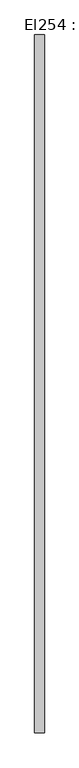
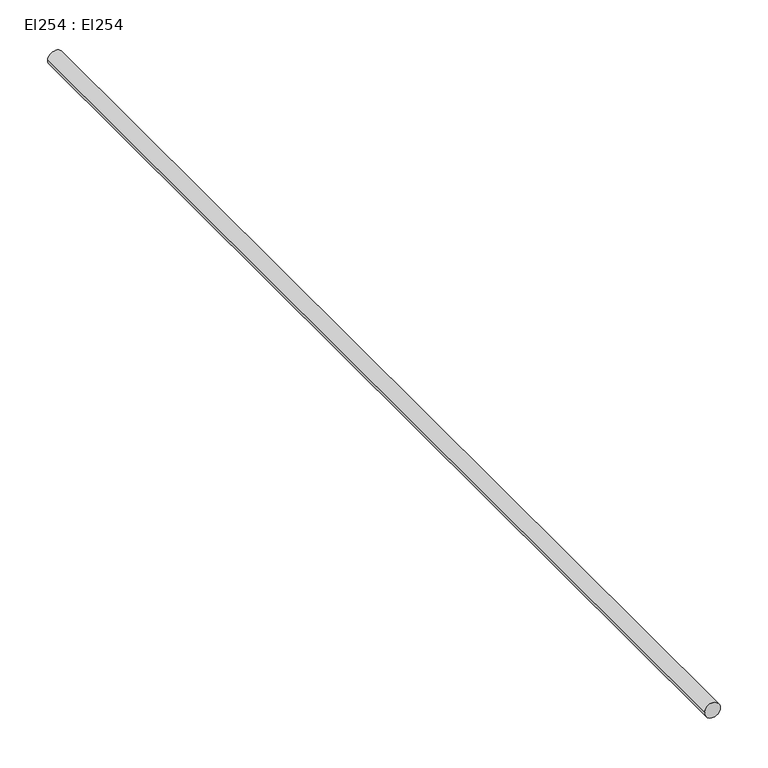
"""IFC4 building model written with IfcOpenShell, lengths in millimetres: cable carrier segment geometry, El254 : El254."""

import ifcopenshell
import ifcopenshell.guid

model = None  # the IFC model being written
_history = None  # IfcOwnerHistory: only IFC2X3 demands one
_inside = {}  # id of a spatial element -> (the spatial element, [elements in it])
_under = {}  # id of a project, library or spatial element -> (it, [spatial elements below it])
_declared = {}  # id of a project -> (the project, [libraries it declares])
_typed = {}  # id of a type object -> (the type object, [elements of that type])
_made_of = {}  # id of a material, layer set ... -> (it, [elements and type objects made of it])


def new_model(schema):
    """Start an empty IFC model of exactly this schema.

    Asked for "IFC4X3", IfcOpenShell would pick the latest addendum, in which some entities
    have other attributes; the version numbers below select the first issue.
    IFC2X3 requires an IfcOwnerHistory on every rooted entity: one is made here for all.
    """
    global model, _history
    if schema == "IFC4X3":
        model = ifcopenshell.file(schema_version=(4, 3, 0, 0))
    else:
        model = ifcopenshell.file(schema=schema)
    _inside.clear()
    _under.clear()
    _declared.clear()
    _typed.clear()
    _made_of.clear()
    _history = None
    if model.schema == "IFC2X3":
        org = make("IfcOrganization", Name="unknown")
        user = make(
            "IfcPersonAndOrganization",
            ThePerson=make("IfcPerson", FamilyName="unknown"),
            TheOrganization=org,
        )
        app = make(
            "IfcApplication",
            ApplicationDeveloper=org,
            Version="unknown",
            ApplicationFullName="unknown",
            ApplicationIdentifier="unknown",
        )
        _history = make(
            "IfcOwnerHistory",
            OwningUser=user,
            OwningApplication=app,
            ChangeAction="ADDED",
            CreationDate=0,
        )
    return model


def make(cls, **values):
    """One entity of the class cls with the attributes given. An attribute that is None is left unset."""
    return model.create_entity(
        cls, **{name: value for name, value in values.items() if value is not None}
    )


def rooted(cls, **values):
    """An entity with a GlobalId (a new one), such as an element, a storey or a relation."""
    return make(cls, GlobalId=ifcopenshell.guid.new(), OwnerHistory=_history, **values)


def si_unit(unit_type, name, prefix=None):
    """IfcSIUnit, for example si_unit("LENGTHUNIT", "METRE", prefix="MILLI")."""
    return make("IfcSIUnit", UnitType=unit_type, Prefix=prefix, Name=name)


def assignment(units):
    """IfcUnitAssignment: the units of a project."""
    return None if units is None else make("IfcUnitAssignment", Units=units)


def point(xyz):
    """IfcCartesianPoint."""
    return None if xyz is None else make("IfcCartesianPoint", Coordinates=xyz)


def direction(xyz):
    """IfcDirection."""
    return None if xyz is None else make("IfcDirection", DirectionRatios=xyz)


def frame(location, z_axis=None, x_axis=None):
    """IfcAxis2Placement3D, a coordinate frame: its origin and axes. An axis left out is left unset."""
    return make(
        "IfcAxis2Placement3D",
        Location=point(location),
        Axis=direction(z_axis),
        RefDirection=direction(x_axis),
    )


def frame_2d(location, x_axis=None):
    """IfcAxis2Placement2D, a coordinate frame in the plane: its origin and x axis."""
    return make(
        "IfcAxis2Placement2D", Location=point(location), RefDirection=direction(x_axis)
    )


def origin():
    """The frame at (0, 0, 0) with its axes left unset."""
    return frame((0.0, 0.0, 0.0))


def place(relative_to, where):
    """IfcLocalPlacement: puts the frame where relative to a parent placement (None: the world)."""
    return make(
        "IfcLocalPlacement", PlacementRelTo=relative_to, RelativePlacement=where
    )


def context(
    kind, dimensions, precision=None, world=None, true_north=None, identifier=None
):
    """IfcGeometricRepresentationContext, for example the 3D "Model" context."""
    return make(
        "IfcGeometricRepresentationContext",
        ContextIdentifier=identifier,
        ContextType=kind,
        CoordinateSpaceDimension=dimensions,
        Precision=precision,
        WorldCoordinateSystem=world,
        TrueNorth=true_north,
    )


def project(units=None, contexts=None):
    """IfcProject with its units and contexts."""
    return rooted(
        "IfcProject",
        Name="project",
        RepresentationContexts=contexts,
        UnitsInContext=assignment(units),
    )


def spatial(cls, under=None, at=None, **own):
    """A site, building, storey or space (cls), placed at a placement, below another one or the project."""
    s = rooted(cls, ObjectPlacement=at, **own)
    if under is not None:
        _under.setdefault(under.id(), (under, []))[1].append(s)
    return s


def circle_curve(where, radius):
    """IfcCircle in the frame where."""
    return make("IfcCircle", Position=where, Radius=radius)


def trimmed(basis, trim1, trim2, sense, master):
    """IfcTrimmedCurve: the piece of a basis curve between two trims."""
    return make(
        "IfcTrimmedCurve",
        BasisCurve=basis,
        Trim1=trim1,
        Trim2=trim2,
        SenseAgreement=sense,
        MasterRepresentation=master,
    )


def segment(curve, same_sense, transition):
    """IfcCompositeCurveSegment."""
    return make(
        "IfcCompositeCurveSegment",
        Transition=transition,
        SameSense=same_sense,
        ParentCurve=curve,
    )


def composite_curve(segments, self_intersect=None):
    """IfcCompositeCurve: segments joined end to end."""
    return make("IfcCompositeCurve", Segments=segments, SelfIntersect=self_intersect)


def outline(outer, holes=None, kind="AREA"):
    """IfcArbitraryClosedProfileDef: a profile drawn as a closed curve; with holes, ...WithVoids."""
    if holes is None:
        return make("IfcArbitraryClosedProfileDef", ProfileType=kind, OuterCurve=outer)
    return make(
        "IfcArbitraryProfileDefWithVoids",
        ProfileType=kind,
        OuterCurve=outer,
        InnerCurves=holes,
    )


def extrude(swept, where, along, depth):
    """IfcExtrudedAreaSolid: the profile swept, set in the frame where, extruded along a direction by depth."""
    return make(
        "IfcExtrudedAreaSolid",
        SweptArea=swept,
        Position=where,
        ExtrudedDirection=direction(along),
        Depth=depth,
    )


def shape(context_of_items, identifier, shape_type, items):
    """IfcShapeRepresentation: the items that make up one representation, for example the "Body"."""
    return make(
        "IfcShapeRepresentation",
        ContextOfItems=context_of_items,
        RepresentationIdentifier=identifier,
        RepresentationType=shape_type,
        Items=items,
    )


def source(mapping_origin, context_of_items, identifier, shape_type, items):
    """IfcRepresentationMap: a shape defined once, which mapped items show again and again."""
    return make(
        "IfcRepresentationMap",
        MappingOrigin=mapping_origin,
        MappedRepresentation=shape(context_of_items, identifier, shape_type, items),
    )


def transform(
    local_origin,
    x_axis=None,
    y_axis=None,
    z_axis=None,
    scale=None,
    scale2=None,
    scale3=None,
    uniform=True,
):
    """IfcCartesianTransformationOperator3D, or its non-uniform kind. x_axis, y_axis, z_axis: its Axis1, 2, 3."""
    if uniform:
        return make(
            "IfcCartesianTransformationOperator3D",
            Axis1=direction(x_axis),
            Axis2=direction(y_axis),
            LocalOrigin=point(local_origin),
            Scale=scale,
            Axis3=direction(z_axis),
        )
    return make(
        "IfcCartesianTransformationOperator3DnonUniform",
        Axis1=direction(x_axis),
        Axis2=direction(y_axis),
        LocalOrigin=point(local_origin),
        Scale=scale,
        Axis3=direction(z_axis),
        Scale2=scale2,
        Scale3=scale3,
    )


def mapped(mapping_source, mapping_target):
    """IfcMappedItem: shows the shape of a source again, moved by a transform."""
    return make(
        "IfcMappedItem", MappingSource=mapping_source, MappingTarget=mapping_target
    )


def made_of(thing, what):
    """Note that an element or type object is made of a material, layer set ...; save() writes the relation."""
    if what is not None:
        _made_of.setdefault(what.id(), (what, []))[1].append(thing)
    return thing


def element(
    cls,
    number,
    at=None,
    inside=None,
    cuts=None,
    type_object=None,
    material=None,
    context=None,
    identifier="Body",
    shape_type=None,
    held_by="IfcProductDefinitionShape",
    body=None,
    shapes=None,
    **own,
):
    """One element of the class cls, such as IfcWall. Its Tag is "e" and its number.

    at: its placement. inside: the storey or other place that contains it. cuts: it is an
    opening in that element (IfcRelVoidsElement). A single representation is given by context,
    identifier, shape_type and body (its items); several are given by shapes. held_by: the class
    of the entity that holds the representations. save() writes the other relations.
    """
    e = rooted(cls, Tag="e%d" % number, ObjectPlacement=at, **own)
    if body is not None:
        shapes = [shape(context, identifier, shape_type, body)]
    if shapes is not None:
        e.Representation = make(held_by, Representations=shapes)
    if inside is not None:
        _inside.setdefault(inside.id(), (inside, []))[1].append(e)
    if cuts is not None:
        rooted(
            "IfcRelVoidsElement", RelatingBuildingElement=cuts, RelatedOpeningElement=e
        )
    if type_object is not None:
        _typed.setdefault(type_object.id(), (type_object, []))[1].append(e)
    return made_of(e, material)


def aggregate(whole, parts):
    """IfcRelAggregates: a whole, such as a stair, and the parts it consists of."""
    return rooted("IfcRelAggregates", RelatingObject=whole, RelatedObjects=parts)


def save(model, path):
    """Write the relations noted so far, then the file.

    IfcRelAggregates (storeys below a building ...), IfcRelContainedInSpatialStructure (elements
    in a storey), IfcRelDefinesByType, IfcRelAssociatesMaterial and IfcRelDeclares: one each for
    every whole, place, type object, material and project.
    """
    for whole, parts in _under.values():
        aggregate(whole, parts)
    for where, things in _inside.values():
        rooted(
            "IfcRelContainedInSpatialStructure",
            RelatedElements=things,
            RelatingStructure=where,
        )
    for kind, things in _typed.values():
        rooted("IfcRelDefinesByType", RelatedObjects=things, RelatingType=kind)
    for what, things in _made_of.values():
        rooted("IfcRelAssociatesMaterial", RelatedObjects=things, RelatingMaterial=what)
    for by, libraries in _declared.values():
        rooted("IfcRelDeclares", RelatingContext=by, RelatedDefinitions=libraries)
    model.write(path)


def el254_el254_902ed94d(model_context):
    return source(origin(), model_context, "Body", "SweptSolid", [
        extrude(outline(composite_curve([segment(trimmed(circle_curve(frame_2d((300.0, 12250.0)), 9.5), [point((300.0, 12240.5))], [point((300.0, 12259.5))], False, "CARTESIAN"), True, "CONTINUOUS"), segment(trimmed(circle_curve(frame_2d((300.0, 12250.0)), 9.5), [point((300.0, 12259.5))], [point((300.0, 12240.5))], False, "CARTESIAN"), True, "CONTINUOUS")], self_intersect=False)), frame((0.0, 24935.369, 0.0), z_axis=(0.0, 1.0, 0.0), x_axis=(0.0, 0.0, 1.0)), (0.0, 0.0, 1.0), 1375.06),
    ])


if __name__ == "__main__":
    model = new_model("IFC4")
    model_context = context("Model", 3, world=origin())
    ifc_project = project(units=[si_unit("LENGTHUNIT", "METRE", prefix="MILLI")], contexts=[model_context])
    site = spatial("IfcSite", under=ifc_project)
    building = spatial("IfcBuilding", under=site)
    placement = place(None, origin())
    el254_el254_shape = el254_el254_902ed94d(model_context)
    element("IfcCableCarrierSegment", 1, ObjectType="El254 : El254", at=placement, inside=building, context=model_context, shape_type="MappedRepresentation", body=[
        mapped(el254_el254_shape, transform((0.0, 0.0, 0.0), x_axis=(1.0, 0.0, 0.0), y_axis=(0.0, 1.0, 0.0), z_axis=(0.0, 0.0, 1.0))),
    ])
    save(model, "model.ifc")
